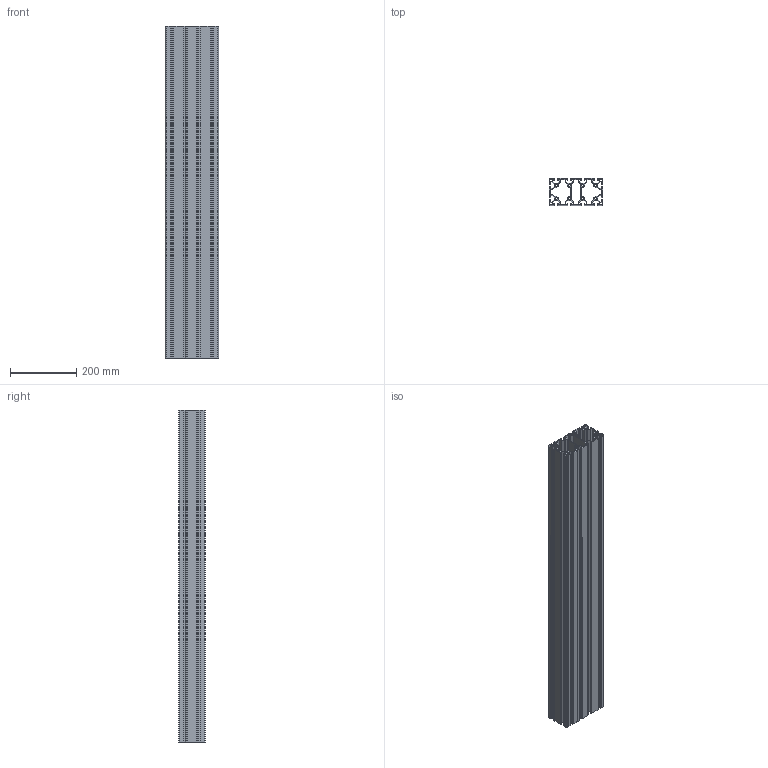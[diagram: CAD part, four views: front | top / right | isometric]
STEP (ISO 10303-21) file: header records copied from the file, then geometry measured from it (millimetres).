
FILE_DESCRIPTION (( 'STEP AP214' ), '1' );
FILE_NAME ('80õ160L.STEP', '2019-12-17T14:23:58', ( '' ), ( '' ), 'SwSTEP 2.0', 'SolidWorks 2014', '' );
FILE_SCHEMA (( 'AUTOMOTIVE_DESIGN' ));
Length unit declared in the file: millimetre
Products named in the file (2): 80õ160L
Bounding box: 160 x 80 x 1000 mm (x, y, z)
Volume: 2314372.6 mm3; surface area: 2045410.4 mm2
Topology: 1 solids, 1 shells, 487 faces, 1455 edges, 970 vertices
Faces by surface type: plane 350, cylinder 137
Entity records: 16380 total; most frequent: CARTESIAN_POINT 2914, ORIENTED_EDGE 2910, DIRECTION 2707, EDGE_CURVE 1455, VECTOR 1181, LINE 1181, VERTEX_POINT 970, AXIS2_PLACEMENT_3D 763
